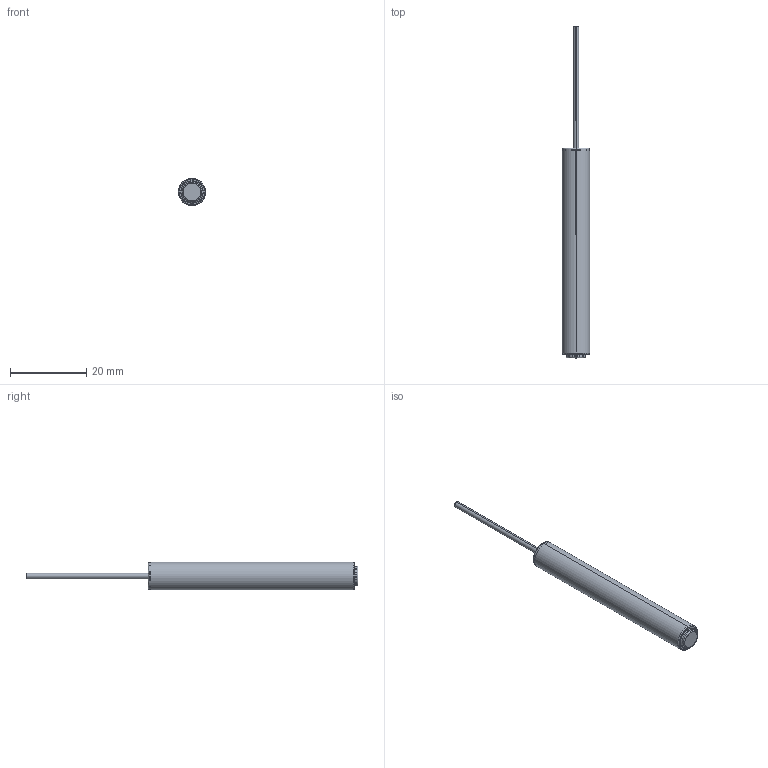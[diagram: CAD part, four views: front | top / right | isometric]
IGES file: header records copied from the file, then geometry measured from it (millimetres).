
Start section: SolidWorks IGES file using analytic representation for surfaces
Bounding box: 7.2 x 87 x 7.2 mm (x, y, z)
Surface area: 1544.3 mm2 (no closed solid volume)
Topology: 0 solids, 0 shells, 22 faces, 232 edges, 232 vertices
Faces by surface type: bspline 14, revolution 8
